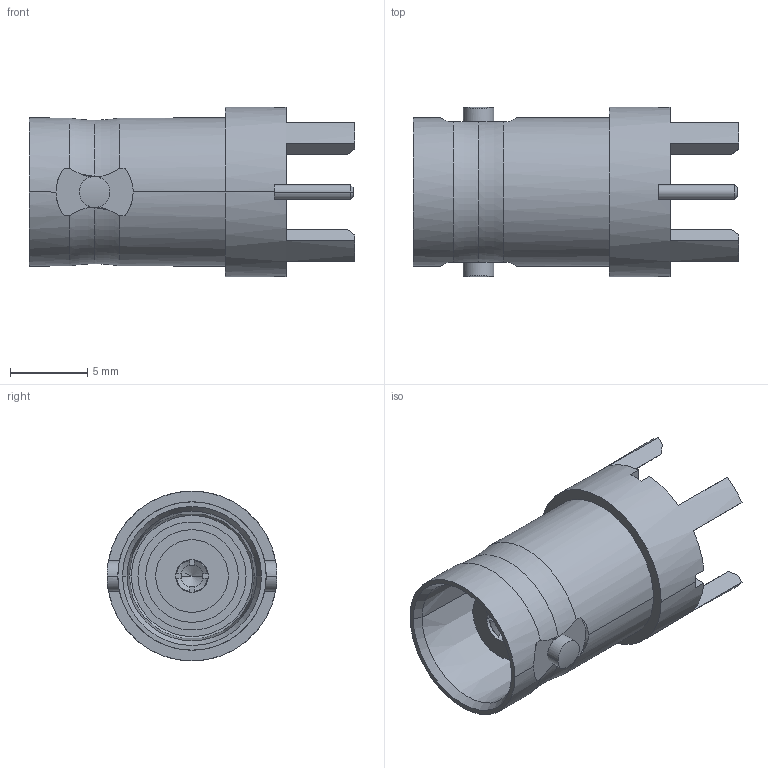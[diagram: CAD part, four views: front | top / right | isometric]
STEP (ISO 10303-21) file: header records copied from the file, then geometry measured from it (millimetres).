
FILE_DESCRIPTION (( 'STEP AP214' ), '1' );
FILE_NAME ('031-5329-51RFX.STEP', '2023-05-09T13:11:27', ( '' ), ( '' ), 'SwSTEP 2.0', 'SolidWorks 2021', '' );
FILE_SCHEMA (( 'AUTOMOTIVE_DESIGN' ));
Length unit declared in the file: millimetre
Products named in the file (1): 031-5329-51RFX
Bounding box: 21.1 x 11 x 11 mm (x, y, z)
Surface area: 1270.2 mm2 (no closed solid volume)
Topology: 0 solids, 4 shells, 100 faces, 306 edges, 203 vertices
Faces by surface type: plane 46, cylinder 27, cone 23, torus 4
Entity records: 3567 total; most frequent: CARTESIAN_POINT 961, DIRECTION 536, ORIENTED_EDGE 519, EDGE_CURVE 288, AXIS2_PLACEMENT_3D 204, VERTEX_POINT 195, LINE 128, VECTOR 128
